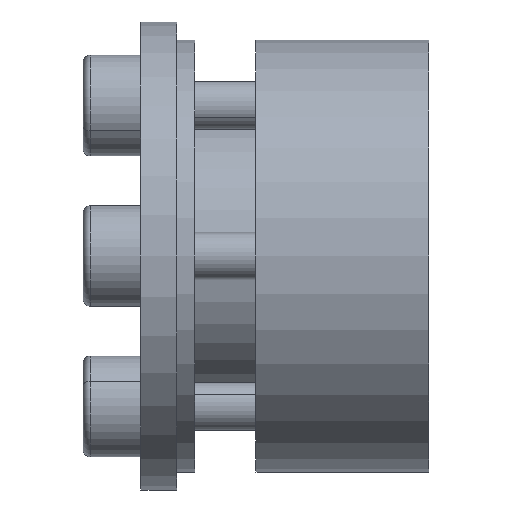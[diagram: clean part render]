
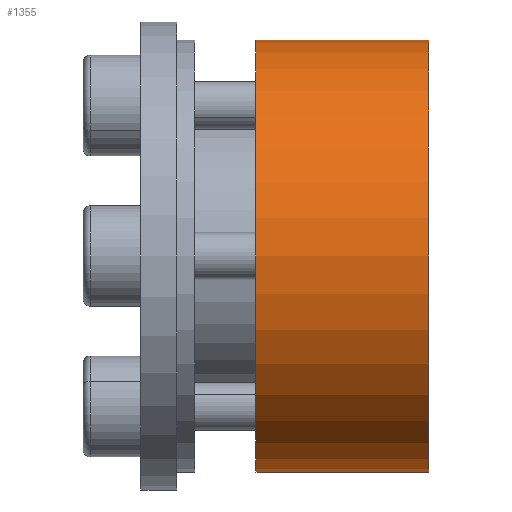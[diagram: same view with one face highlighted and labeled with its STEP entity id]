
A CAD part, front view. The second image highlights one B-rep face of the part: STEP entity #1355.
In plain terms, the highlighted cylindrical face has radius 15 mm (diameter 30 mm), a partial arc.
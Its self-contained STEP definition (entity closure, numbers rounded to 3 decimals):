
#1 = LINE ( 'NONE', #66, #65 ) ;
#3 = CARTESIAN_POINT ( 'NONE',  ( 8., 0., 15. ) ) ;
#57 = DIRECTION ( 'NONE',  ( -1., 0., 0. ) ) ;
#58 = VECTOR ( 'NONE', #57, 1000. ) ;
#59 = CARTESIAN_POINT ( 'NONE',  ( 0., 0., 15. ) ) ;
#64 = DIRECTION ( 'NONE',  ( -1., 0., 0. ) ) ;
#65 = VECTOR ( 'NONE', #64, 1000. ) ;
#66 = CARTESIAN_POINT ( 'NONE',  ( 0., 0., -15. ) ) ;
#68 = LINE ( 'NONE', #59, #58 ) ;
#70 = CARTESIAN_POINT ( 'NONE',  ( 20., 0., -15. ) ) ;
#75 = CARTESIAN_POINT ( 'NONE',  ( 20., 0., 15. ) ) ;
#76 = CARTESIAN_POINT ( 'NONE',  ( 8., 0., -15. ) ) ;
#1333 = ORIENTED_EDGE ( 'NONE', *, *, #1354, .F. ) ;
#1354 = EDGE_CURVE ( 'NONE', #3840, #3849, #2907, .T. ) ;
#1355 = ADVANCED_FACE ( 'NONE', ( #2908 ), #2973, .T. ) ;
#1356 = EDGE_LOOP ( 'NONE', ( #1413, #1414, #1416, #1333 ) ) ;
#1413 = ORIENTED_EDGE ( 'NONE', *, *, #3852, .F. ) ;
#1414 = ORIENTED_EDGE ( 'NONE', *, *, #1415, .T. ) ;
#1415 = EDGE_CURVE ( 'NONE', #3854, #3843, #2948, .T. ) ;
#1416 = ORIENTED_EDGE ( 'NONE', *, *, #3844, .T. ) ;
#2903 = DIRECTION ( 'NONE',  ( 0., 0., 1. ) ) ;
#2904 = DIRECTION ( 'NONE',  ( -1., 0., 0. ) ) ;
#2905 = CARTESIAN_POINT ( 'NONE',  ( 8., 0., 0. ) ) ;
#2906 = AXIS2_PLACEMENT_3D ( 'NONE', #2905, #2904, #2903 ) ;
#2907 = CIRCLE ( 'NONE', #2906, 15. ) ;
#2908 = FACE_OUTER_BOUND ( 'NONE', #1356, .T. ) ;
#2944 = DIRECTION ( 'NONE',  ( 0., 0., 1. ) ) ;
#2945 = DIRECTION ( 'NONE',  ( -1., 0., 0. ) ) ;
#2946 = CARTESIAN_POINT ( 'NONE',  ( 20., 0., 0. ) ) ;
#2947 = AXIS2_PLACEMENT_3D ( 'NONE', #2946, #2945, #2944 ) ;
#2948 = CIRCLE ( 'NONE', #2947, 15. ) ;
#2968 = DIRECTION ( 'NONE',  ( 0., 0., 1. ) ) ;
#2969 = DIRECTION ( 'NONE',  ( -1., 0., 0. ) ) ;
#2970 = CARTESIAN_POINT ( 'NONE',  ( 0., 0., 0. ) ) ;
#2971 = AXIS2_PLACEMENT_3D ( 'NONE', #2970, #2969, #2968 ) ;
#2973 = CYLINDRICAL_SURFACE ( 'NONE', #2971, 15. ) ;
#3840 = VERTEX_POINT ( 'NONE', #76 ) ;
#3843 = VERTEX_POINT ( 'NONE', #75 ) ;
#3844 = EDGE_CURVE ( 'NONE', #3843, #3849, #68, .T. ) ;
#3849 = VERTEX_POINT ( 'NONE', #3 ) ;
#3852 = EDGE_CURVE ( 'NONE', #3854, #3840, #1, .T. ) ;
#3854 = VERTEX_POINT ( 'NONE', #70 ) ;
